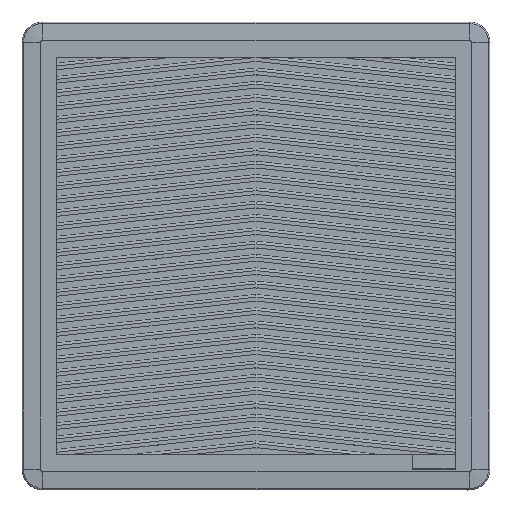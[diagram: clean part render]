
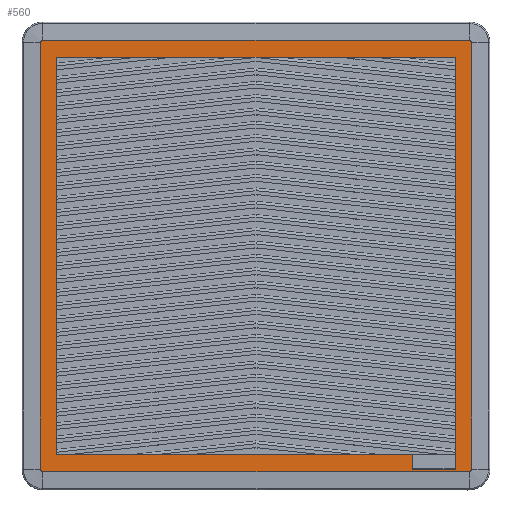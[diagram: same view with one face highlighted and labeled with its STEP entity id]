
A CAD part, top view. The second image highlights one B-rep face of the part: STEP entity #560.
In plain terms, the highlighted planar face has unit normal (0, 0, 1).
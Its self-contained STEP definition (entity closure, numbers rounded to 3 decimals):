
#91=FACE_BOUND('',#1980,.T.);
#560=ADVANCED_FACE('',(#1269,#91),#13043,.T.);
#1269=FACE_OUTER_BOUND('',#1979,.T.);
#1979=EDGE_LOOP('',(#4684,#4685,#4686,#4687,#4688,#4689,#4690,#4691));
#1980=EDGE_LOOP('',(#4692,#4693,#4694,#4695,#4696,#4697));
#4684=ORIENTED_EDGE('',*,*,#8446,.T.);
#4685=ORIENTED_EDGE('',*,*,#8734,.T.);
#4686=ORIENTED_EDGE('',*,*,#8443,.T.);
#4687=ORIENTED_EDGE('',*,*,#8748,.T.);
#4688=ORIENTED_EDGE('',*,*,#8444,.T.);
#4689=ORIENTED_EDGE('',*,*,#8742,.T.);
#4690=ORIENTED_EDGE('',*,*,#8445,.T.);
#4691=ORIENTED_EDGE('',*,*,#8737,.T.);
#4692=ORIENTED_EDGE('',*,*,#8441,.T.);
#4693=ORIENTED_EDGE('',*,*,#7556,.T.);
#4694=ORIENTED_EDGE('',*,*,#7535,.T.);
#4695=ORIENTED_EDGE('',*,*,#8427,.T.);
#4696=ORIENTED_EDGE('',*,*,#7173,.F.);
#4697=ORIENTED_EDGE('',*,*,#8442,.T.);
#7173=EDGE_CURVE('',#11491,#11492,#9422,.T.);
#7535=EDGE_CURVE('',#11825,#11824,#9784,.T.);
#7556=EDGE_CURVE('',#11840,#11825,#9805,.T.);
#8427=EDGE_CURVE('',#11824,#11492,#10676,.T.);
#8441=EDGE_CURVE('',#12453,#11840,#10690,.T.);
#8442=EDGE_CURVE('',#11491,#12453,#10691,.T.);
#8443=EDGE_CURVE('',#12455,#12456,#10692,.T.);
#8444=EDGE_CURVE('',#12457,#12458,#10693,.T.);
#8445=EDGE_CURVE('',#12459,#12460,#10694,.T.);
#8446=EDGE_CURVE('',#12461,#12454,#10695,.T.);
#8734=EDGE_CURVE('',#12454,#12455,#8873,.T.);
#8737=EDGE_CURVE('',#12460,#12461,#8874,.T.);
#8742=EDGE_CURVE('',#12458,#12459,#8876,.T.);
#8748=EDGE_CURVE('',#12456,#12457,#8879,.T.);
#8873=(
BOUNDED_CURVE()
B_SPLINE_CURVE(2,(#22561,#22562,#22563),.UNSPECIFIED.,.F.,.F.)
B_SPLINE_CURVE_WITH_KNOTS((3,3),(-2.818,0.),.UNSPECIFIED.)
CURVE()
GEOMETRIC_REPRESENTATION_ITEM()
RATIONAL_B_SPLINE_CURVE((1.,0.707,1.))
REPRESENTATION_ITEM('')
);
#8874=(
BOUNDED_CURVE()
B_SPLINE_CURVE(2,(#22568,#22569,#22570),.UNSPECIFIED.,.F.,.F.)
B_SPLINE_CURVE_WITH_KNOTS((3,3),(-2.818,0.),.UNSPECIFIED.)
CURVE()
GEOMETRIC_REPRESENTATION_ITEM()
RATIONAL_B_SPLINE_CURVE((1.,0.707,1.))
REPRESENTATION_ITEM('')
);
#8876=(
BOUNDED_CURVE()
B_SPLINE_CURVE(2,(#22582,#22583,#22584),.UNSPECIFIED.,.F.,.F.)
B_SPLINE_CURVE_WITH_KNOTS((3,3),(-2.818,0.),.UNSPECIFIED.)
CURVE()
GEOMETRIC_REPRESENTATION_ITEM()
RATIONAL_B_SPLINE_CURVE((1.,0.707,1.))
REPRESENTATION_ITEM('')
);
#8879=(
BOUNDED_CURVE()
B_SPLINE_CURVE(2,(#22603,#22604,#22605),.UNSPECIFIED.,.F.,.F.)
B_SPLINE_CURVE_WITH_KNOTS((3,3),(-2.818,0.),.UNSPECIFIED.)
CURVE()
GEOMETRIC_REPRESENTATION_ITEM()
RATIONAL_B_SPLINE_CURVE((1.,0.707,1.))
REPRESENTATION_ITEM('')
);
#9422=B_SPLINE_CURVE_WITH_KNOTS('',1,(#19432,#19433),.UNSPECIFIED.,.F.,
 .F.,(2,2),(0.,286.),.UNSPECIFIED.);
#9784=B_SPLINE_CURVE_WITH_KNOTS('',1,(#20156,#20157),.UNSPECIFIED.,.F.,
 .F.,(2,2),(-276.,0.),.UNSPECIFIED.);
#9805=B_SPLINE_CURVE_WITH_KNOTS('',1,(#20198,#20199),.UNSPECIFIED.,.F.,
 .F.,(2,2),(-247.,0.),.UNSPECIFIED.);
#10676=B_SPLINE_CURVE_WITH_KNOTS('',1,(#21940,#21941),.UNSPECIFIED.,.F.,
 .F.,(2,2),(-277.,0.),.UNSPECIFIED.);
#10690=B_SPLINE_CURVE_WITH_KNOTS('',1,(#21968,#21969),.UNSPECIFIED.,.F.,
 .F.,(2,2),(0.,10.),.UNSPECIFIED.);
#10691=B_SPLINE_CURVE_WITH_KNOTS('',1,(#21970,#21971),.UNSPECIFIED.,.F.,
 .F.,(2,2),(0.,30.),.UNSPECIFIED.);
#10692=B_SPLINE_CURVE_WITH_KNOTS('',1,(#21972,#21973),.UNSPECIFIED.,.F.,
 .F.,(2,2),(0.,296.),.UNSPECIFIED.);
#10693=B_SPLINE_CURVE_WITH_KNOTS('',1,(#21974,#21975),.UNSPECIFIED.,.F.,
 .F.,(2,2),(0.,296.),.UNSPECIFIED.);
#10694=B_SPLINE_CURVE_WITH_KNOTS('',1,(#21976,#21977),.UNSPECIFIED.,.F.,
 .F.,(2,2),(0.,296.),.UNSPECIFIED.);
#10695=B_SPLINE_CURVE_WITH_KNOTS('',1,(#21978,#21979),.UNSPECIFIED.,.F.,
 .F.,(2,2),(0.,296.),.UNSPECIFIED.);
#11491=VERTEX_POINT('',#17715);
#11492=VERTEX_POINT('',#17716);
#11824=VERTEX_POINT('',#18048);
#11825=VERTEX_POINT('',#18049);
#11840=VERTEX_POINT('',#18064);
#12453=VERTEX_POINT('',#18677);
#12454=VERTEX_POINT('',#18678);
#12455=VERTEX_POINT('',#18679);
#12456=VERTEX_POINT('',#18680);
#12457=VERTEX_POINT('',#18681);
#12458=VERTEX_POINT('',#18682);
#12459=VERTEX_POINT('',#18683);
#12460=VERTEX_POINT('',#18684);
#12461=VERTEX_POINT('',#18685);
#13043=PLANE('',#13849);
#13849=AXIS2_PLACEMENT_3D('',#17035,#14560,$);
#14560=DIRECTION('',(0.,0.,1.));
#17035=CARTESIAN_POINT('',(-179.753,-179.753,3.));
#17715=CARTESIAN_POINT('',(138.5,-148.,3.));
#17716=CARTESIAN_POINT('',(138.5,138.,3.));
#18048=CARTESIAN_POINT('',(-138.5,138.,3.));
#18049=CARTESIAN_POINT('',(-138.5,-138.,3.));
#18064=CARTESIAN_POINT('',(108.5,-138.,3.));
#18677=CARTESIAN_POINT('',(108.5,-148.,3.));
#18678=CARTESIAN_POINT('',(148.,-149.794,3.));
#18679=CARTESIAN_POINT('',(149.794,-148.,3.));
#18680=CARTESIAN_POINT('',(149.794,148.,3.));
#18681=CARTESIAN_POINT('',(148.,149.794,3.));
#18682=CARTESIAN_POINT('',(-148.,149.794,3.));
#18683=CARTESIAN_POINT('',(-149.794,148.,3.));
#18684=CARTESIAN_POINT('',(-149.794,-148.,3.));
#18685=CARTESIAN_POINT('',(-148.,-149.794,3.));
#19432=CARTESIAN_POINT('',(138.5,-148.,3.));
#19433=CARTESIAN_POINT('',(138.5,138.,3.));
#20156=CARTESIAN_POINT('',(-138.5,-138.,3.));
#20157=CARTESIAN_POINT('',(-138.5,138.,3.));
#20198=CARTESIAN_POINT('',(108.5,-138.,3.));
#20199=CARTESIAN_POINT('',(-138.5,-138.,3.));
#21940=CARTESIAN_POINT('',(-138.5,138.,3.));
#21941=CARTESIAN_POINT('',(138.5,138.,3.));
#21968=CARTESIAN_POINT('',(108.5,-148.,3.));
#21969=CARTESIAN_POINT('',(108.5,-138.,3.));
#21970=CARTESIAN_POINT('',(138.5,-148.,3.));
#21971=CARTESIAN_POINT('',(108.5,-148.,3.));
#21972=CARTESIAN_POINT('',(149.794,-148.,3.));
#21973=CARTESIAN_POINT('',(149.794,148.,3.));
#21974=CARTESIAN_POINT('',(148.,149.794,3.));
#21975=CARTESIAN_POINT('',(-148.,149.794,3.));
#21976=CARTESIAN_POINT('',(-149.794,148.,3.));
#21977=CARTESIAN_POINT('',(-149.794,-148.,3.));
#21978=CARTESIAN_POINT('',(-148.,-149.794,3.));
#21979=CARTESIAN_POINT('',(148.,-149.794,3.));
#22561=CARTESIAN_POINT('',(148.,-149.794,3.));
#22562=CARTESIAN_POINT('',(149.794,-149.794,3.));
#22563=CARTESIAN_POINT('',(149.794,-148.,3.));
#22568=CARTESIAN_POINT('',(-149.794,-148.,3.));
#22569=CARTESIAN_POINT('',(-149.794,-149.794,3.));
#22570=CARTESIAN_POINT('',(-148.,-149.794,3.));
#22582=CARTESIAN_POINT('',(-148.,149.794,3.));
#22583=CARTESIAN_POINT('',(-149.794,149.794,3.));
#22584=CARTESIAN_POINT('',(-149.794,148.,3.));
#22603=CARTESIAN_POINT('',(149.794,148.,3.));
#22604=CARTESIAN_POINT('',(149.794,149.794,3.));
#22605=CARTESIAN_POINT('',(148.,149.794,3.));
